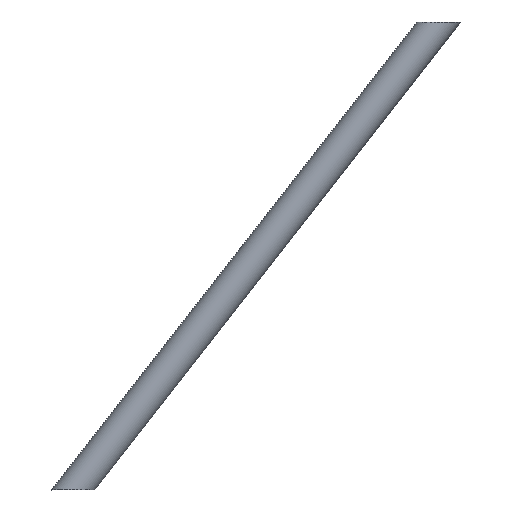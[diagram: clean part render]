
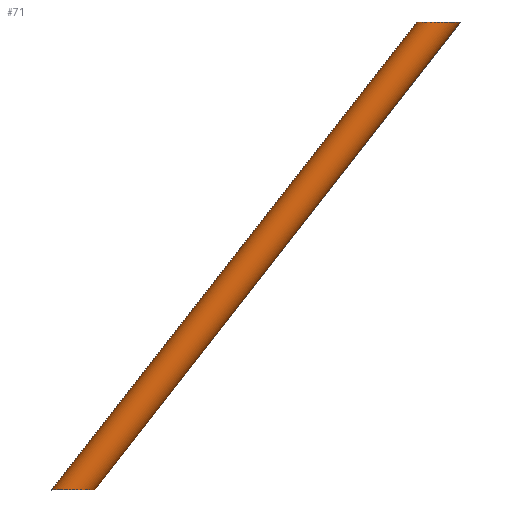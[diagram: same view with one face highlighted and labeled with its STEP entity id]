
A CAD part, front view. The second image highlights one B-rep face of the part: STEP entity #71.
In plain terms, the highlighted cylindrical face has radius 15 mm (diameter 30 mm), a full revolution.
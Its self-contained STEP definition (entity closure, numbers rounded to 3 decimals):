
#14=FACE_BOUND('',#26,.T.);
#15=CYLINDRICAL_SURFACE('',#94,15.);
#20=FACE_OUTER_BOUND('',#25,.T.);
#25=EDGE_LOOP('',(#53,#54));
#26=EDGE_LOOP('',(#55,#56));
#27=ELLIPSE('',#87,19.035,15.);
#28=ELLIPSE('',#89,19.035,15.);
#29=ELLIPSE('',#91,19.035,15.);
#30=ELLIPSE('',#93,19.035,15.);
#35=VERTEX_POINT('',#119);
#36=VERTEX_POINT('',#120);
#37=VERTEX_POINT('',#124);
#38=VERTEX_POINT('',#125);
#40=EDGE_CURVE('',#36,#35,#27,.T.);
#42=EDGE_CURVE('',#38,#37,#28,.T.);
#43=EDGE_CURVE('',#35,#36,#29,.T.);
#44=EDGE_CURVE('',#37,#38,#30,.T.);
#53=ORIENTED_EDGE('',*,*,#40,.T.);
#54=ORIENTED_EDGE('',*,*,#43,.T.);
#55=ORIENTED_EDGE('',*,*,#44,.T.);
#56=ORIENTED_EDGE('',*,*,#42,.T.);
#71=ADVANCED_FACE('',(#20,#14),#15,.T.);
#87=AXIS2_PLACEMENT_3D('',#122,#100,#101);
#89=AXIS2_PLACEMENT_3D('',#127,#105,#106);
#91=AXIS2_PLACEMENT_3D('',#129,#109,#110);
#93=AXIS2_PLACEMENT_3D('',#131,#113,#114);
#94=AXIS2_PLACEMENT_3D('',#132,#115,#116);
#100=DIRECTION('center_axis',(0.,0.,
1.));
#101=DIRECTION('ref_axis',(1.,0.,0.));
#105=DIRECTION('center_axis',(0.,0.,
-1.));
#106=DIRECTION('ref_axis',(1.,0.,0.));
#109=DIRECTION('center_axis',(0.,0.,
1.));
#110=DIRECTION('ref_axis',(1.,0.,0.));
#113=DIRECTION('center_axis',(0.,0.,
-1.));
#114=DIRECTION('ref_axis',(1.,0.,0.));
#115=DIRECTION('center_axis',(0.616,0.,0.788));
#116=DIRECTION('ref_axis',(0.788,0.,-0.616));
#119=CARTESIAN_POINT('',(4137.548,0.,-440.));
#120=CARTESIAN_POINT('',(4099.477,0.,-440.));
#122=CARTESIAN_POINT('Origin',(4118.513,0.,-440.));
#124=CARTESIAN_POINT('',(4457.875,0.,-30.));
#125=CARTESIAN_POINT('',(4419.804,0.,-30.));
#127=CARTESIAN_POINT('Origin',(4438.84,0.,-30.));
#129=CARTESIAN_POINT('Origin',(4118.513,0.,-440.));
#131=CARTESIAN_POINT('Origin',(4438.84,0.,-30.));
#132=CARTESIAN_POINT('Origin',(4278.676,0.,-235.));
